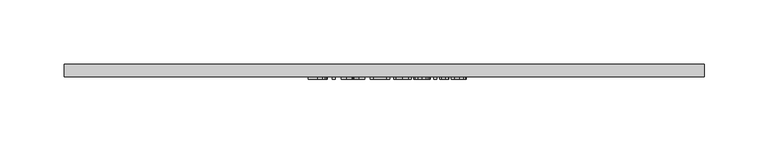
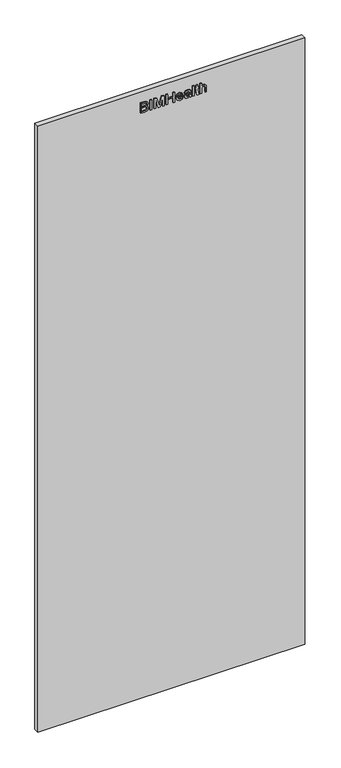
"""IFC4 building model written with IfcOpenShell, lengths in millimetres: furniture geometry, BIMHealth-Mirror_Consultation-LOD2A-v1 : BIMHealth-Mirror_Consultation-LOD2A-v1."""

from ifc_helpers import new_model, si_unit, frame, origin, place, context, project, spatial, polyline, outline, extrude, source, transform, mapped, element, save


def furniture_29951476(model_context):
    return source(origin(), model_context, "Body", "SweptSolid", [
        extrude(outline(polyline([(2060.0, 190.9218597), (2060.0, 198.3785905), (2060.3389423, 201.5348405), (2061.3389423, 203.6766674), (2063.2235577, 205.1117636), (2065.8701923, 205.6910905), (2068.9326923, 204.8425328), (2070.7692308, 202.417052), (2072.5120192, 204.4146482), (2074.8125, 205.0757059), (2077.3317308, 204.2896482), (2079.1129808, 202.1165712), (2079.6923077, 198.4362828), (2079.6923077, 190.9218597), (2060.0, 190.9218597)]), holes=[polyline([(2071.6923077, 193.3833982), (2077.2307692, 193.3833982), (2077.2307692, 197.5372443), (2076.9735577, 200.7007059), (2076.0240385, 202.1189751), (2074.4182692, 202.6141674), (2072.8149038, 202.0829174), (2071.9038462, 200.5035905), (2071.6923077, 197.8785905), (2071.6923077, 193.3833982)]), polyline([(2062.4615385, 193.3833982), (2069.2307692, 193.3833982), (2069.2307692, 198.1910905), (2068.9014423, 201.2319559), (2067.7596154, 202.7583982), (2065.8461538, 203.229552), (2063.09375, 201.8040712), (2062.5576923, 200.2583982), (2062.4615385, 198.4314751), (2062.4615385, 193.3833982)])]), frame((0.0, -12.0, 0.0), z_axis=(0.0, 1.0, 0.0), x_axis=(0.0, 0.0, 1.0)), (0.0, 0.0, 1.0), 2.0),
        extrude(outline(polyline([(211.8449366, -12.0), (209.3833982, -12.0), (209.3833982, -10.0), (211.8449366, -10.0), (211.8449366, -12.0)])), frame((0.0, 0.0, 2060.0), z_axis=(0.0, 0.0, 1.0), x_axis=(1.0, 0.0, 0.0)), (0.0, 0.0, 1.0), 19.6923077),
        extrude(outline(polyline([(2060.0, 216.7680136), (2060.0, 219.229552), (2077.2307692, 219.229552), (2060.0, 224.1814751), (2060.0, 227.5132059), (2077.2307692, 232.4603212), (2060.0, 232.4603212), (2060.0, 234.9218597), (2079.6923077, 234.9218597), (2079.6923077, 230.6862828), (2066.0528846, 226.7247443), (2062.9134615, 225.8449366), (2065.8125, 225.0276289), (2079.6923077, 220.9891674), (2079.6923077, 216.7680136), (2060.0, 216.7680136)])), frame((0.0, -12.0, 0.0), z_axis=(0.0, 1.0, 0.0), x_axis=(0.0, 0.0, 1.0)), (0.0, 0.0, 1.0), 2.0),
        extrude(outline(polyline([(2060.0, 239.229552), (2060.0, 241.6910905), (2069.2307692, 241.6910905), (2069.2307692, 252.1526289), (2060.0, 252.1526289), (2060.0, 254.6141674), (2079.6923077, 254.6141674), (2079.6923077, 252.1526289), (2071.6923077, 252.1526289), (2071.6923077, 241.6910905), (2079.6923077, 241.6910905), (2079.6923077, 239.229552), (2060.0, 239.229552)])), frame((0.0, -12.0, 0.0), z_axis=(0.0, 1.0, 0.0), x_axis=(0.0, 0.0, 1.0)), (0.0, 0.0, 1.0), 2.0),
        extrude(outline(polyline([(2064.3076923, 268.7391674), (2062.6682692, 267.1526289), (2062.1538462, 264.7391674), (2063.2644231, 261.5684943), (2066.4615385, 260.1526289), (2067.125, 271.229552), (2072.7644231, 269.3617636), (2074.7692308, 264.5516674), (2072.7596154, 259.5997443), (2067.1105769, 257.6910905), (2061.6418269, 259.5805136), (2059.6923077, 264.6910905), (2060.8221154, 268.8954174), (2064.0, 271.1526289), (2064.3076923, 268.7391674)]), holes=[polyline([(2068.9230769, 260.1526289), (2071.3870192, 261.510802), (2072.3076923, 264.542052), (2071.1538462, 267.7824366), (2068.9230769, 268.7680136), (2068.9230769, 260.1526289)])]), frame((0.0, -12.0, 0.0), z_axis=(0.0, 1.0, 0.0), x_axis=(0.0, 0.0, 1.0)), (0.0, 0.0, 1.0), 2.0),
        extrude(outline(polyline([(2061.8461538, 282.9218597), (2060.0, 283.5372443), (2060.0, 285.9987828), (2062.0697115, 285.5083982), (2066.3461538, 285.3833982), (2069.4086538, 285.3833982), (2071.5625, 285.2632059), (2073.2331731, 284.5083982), (2074.3317308, 282.823302), (2074.7692308, 279.8401289), (2074.2740385, 276.5925328), (2072.8653846, 274.448302), (2070.4615385, 273.3833982), (2070.1538462, 275.8449366), (2071.8341346, 277.0324366), (2072.3076923, 279.5228212), (2071.5961538, 282.2439751), (2069.2307692, 282.9074366), (2068.3846154, 278.6382059), (2068.0144231, 276.5083982), (2067.2067308, 274.7848405), (2065.7932692, 273.5468597), (2063.8461538, 273.0757059), (2060.8605769, 274.323302), (2059.6923077, 277.8978212), (2060.1778846, 280.5348405), (2061.8461538, 282.9218597)]), holes=[polyline([(2066.4206731, 282.9146482), (2064.1682692, 282.5180136), (2062.7427885, 280.9122443), (2062.1538462, 278.4218597), (2065.6153846, 276.8329174), (2066.0144231, 278.9507059), (2066.4206731, 282.9146482)])]), frame((0.0, -12.0, 0.0), z_axis=(0.0, 1.0, 0.0), x_axis=(0.0, 0.0, 1.0)), (0.0, 0.0, 1.0), 2.0),
        extrude(outline(polyline([(291.229552, -12.0), (288.7680136, -12.0), (288.7680136, -10.0), (291.229552, -10.0), (291.229552, -12.0)])), frame((0.0, 0.0, 2060.0), z_axis=(0.0, 0.0, 1.0), x_axis=(1.0, 0.0, 0.0)), (0.0, 0.0, 1.0), 19.6923077),
        extrude(outline(polyline([(2063.0456731, 298.9218597), (2072.0, 297.6910905), (2072.0, 300.1526289), (2074.4615385, 300.1526289), (2074.4615385, 297.6910905), (2079.4230769, 297.6910905), (2077.9759615, 295.229552), (2074.4615385, 295.229552), (2074.4615385, 293.3833982), (2072.0, 293.3833982), (2072.0, 295.229552), (2063.9663462, 295.229552), (2060.1009615, 296.5564751), (2059.6923077, 298.6189751), (2059.9278846, 300.4603212), (2063.0456731, 298.9218597)])), frame((0.0, -12.0, 0.0), z_axis=(0.0, 1.0, 0.0), x_axis=(0.0, 0.0, 1.0)), (0.0, 0.0, 1.0), 2.0),
        extrude(outline(polyline([(2060.0, 302.6141674), (2060.0, 305.0757059), (2067.6826923, 305.0757059), (2070.2740385, 305.4771482), (2071.7596154, 306.823302), (2072.3076923, 308.8401289), (2071.4951923, 311.0612828), (2068.8990385, 311.8449366), (2060.0, 311.8449366), (2060.0, 314.3064751), (2069.1538462, 314.3064751), (2072.3894231, 313.8016674), (2074.1370192, 312.1237828), (2074.7692308, 309.3593597), (2072.4519231, 305.0757059), (2079.6923077, 305.0757059), (2079.6923077, 302.6141674), (2060.0, 302.6141674)])), frame((0.0, -12.0, 0.0), z_axis=(0.0, 1.0, 0.0), x_axis=(0.0, 0.0, 1.0)), (0.0, 0.0, 1.0), 2.0),
        extrude(outline(polyline([(500.0, -10.0), (0.0, -10.0), (0.0, 0.0), (500.0, 0.0), (500.0, -10.0)])), frame((0.0, 0.0, 900.0), z_axis=(0.0, 0.0, 1.0), x_axis=(1.0, 0.0, 0.0)), (0.0, 0.0, 1.0), 1200.0),
    ])


if __name__ == "__main__":
    model = new_model("IFC4")
    model_context = context("Model", 3, world=origin())
    ifc_project = project(units=[si_unit("LENGTHUNIT", "METRE", prefix="MILLI")], contexts=[model_context])
    site = spatial("IfcSite", under=ifc_project)
    building = spatial("IfcBuilding", under=site)
    placement = place(None, origin())
    furniture_shape = furniture_29951476(model_context)
    element("IfcFurniture", 1, ObjectType="BIMHealth-Mirror_Consultation-LOD2A-v1 : BIMHealth-Mirror_Consultation-LOD2A-v1", at=placement, inside=building, context=model_context, shape_type="MappedRepresentation", body=[
        mapped(furniture_shape, transform((0.0, 0.0, 0.0), x_axis=(1.0, 0.0, 0.0), y_axis=(0.0, 1.0, 0.0), z_axis=(0.0, 0.0, 1.0))),
    ])
    save(model, "model.ifc")
